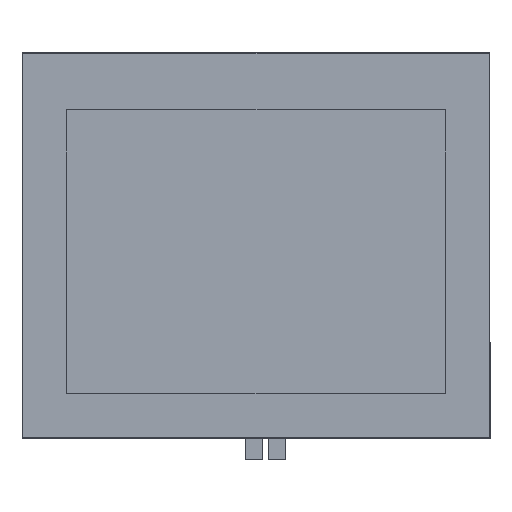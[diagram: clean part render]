
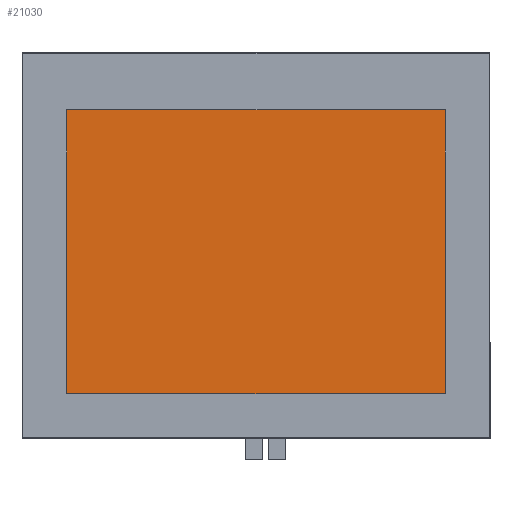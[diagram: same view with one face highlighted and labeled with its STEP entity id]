
A CAD part, top view. The second image highlights one B-rep face of the part: STEP entity #21030.
In plain terms, the highlighted planar face has unit normal (0, 0, 1).
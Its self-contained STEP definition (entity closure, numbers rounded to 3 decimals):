
#175 = CARTESIAN_POINT ( 'NONE',  ( 36., 150.05, 3.9 ) ) ;
#1018 = CARTESIAN_POINT ( 'NONE',  ( 36., 36., 3.9 ) ) ;
#2068 = VECTOR ( 'NONE', #17478, 1000. ) ;
#2098 = VECTOR ( 'NONE', #32379, 1000. ) ;
#2142 = FACE_OUTER_BOUND ( 'NONE', #15164, .T. ) ;
#3230 = AXIS2_PLACEMENT_3D ( 'NONE', #14468, #34590, #17346 ) ;
#4228 = CARTESIAN_POINT ( 'NONE',  ( 340.13, 36., 3.9 ) ) ;
#4598 = EDGE_CURVE ( 'NONE', #31298, #8494, #32689, .T. ) ;
#4893 = ORIENTED_EDGE ( 'NONE', *, *, #20744, .T. ) ;
#5320 = EDGE_CURVE ( 'NONE', #28374, #22663, #11023, .T. ) ;
#5996 = DIRECTION ( 'NONE',  ( -1., 0., 0. ) ) ;
#6630 = CARTESIAN_POINT ( 'NONE',  ( 188.065, 264.1, 3.9 ) ) ;
#8494 = VERTEX_POINT ( 'NONE', #4228 ) ;
#11023 = LINE ( 'NONE', #6630, #21379 ) ;
#11181 = CARTESIAN_POINT ( 'NONE',  ( 340.13, 264.1, 3.9 ) ) ;
#11325 = PLANE ( 'NONE',  #3230 ) ;
#11651 = LINE ( 'NONE', #29725, #34602 ) ;
#14468 = CARTESIAN_POINT ( 'NONE',  ( 188.065, 150.05, 3.9 ) ) ;
#15164 = EDGE_LOOP ( 'NONE', ( #4893, #33893, #29288, #30297 ) ) ;
#17346 = DIRECTION ( 'NONE',  ( 0., -1., 0. ) ) ;
#17478 = DIRECTION ( 'NONE',  ( 0., -1., 0. ) ) ;
#20744 = EDGE_CURVE ( 'NONE', #8494, #28374, #11651, .T. ) ;
#21030 = ADVANCED_FACE ( 'NONE', ( #2142 ), #11325, .T. ) ;
#21379 = VECTOR ( 'NONE', #5996, 1000. ) ;
#22663 = VERTEX_POINT ( 'NONE', #28702 ) ;
#28374 = VERTEX_POINT ( 'NONE', #11181 ) ;
#28702 = CARTESIAN_POINT ( 'NONE',  ( 36., 264.1, 3.9 ) ) ;
#29288 = ORIENTED_EDGE ( 'NONE', *, *, #31584, .T. ) ;
#29725 = CARTESIAN_POINT ( 'NONE',  ( 340.13, 150.05, 3.9 ) ) ;
#29858 = DIRECTION ( 'NONE',  ( 0., 1., 0. ) ) ;
#30297 = ORIENTED_EDGE ( 'NONE', *, *, #4598, .T. ) ;
#31298 = VERTEX_POINT ( 'NONE', #1018 ) ;
#31584 = EDGE_CURVE ( 'NONE', #22663, #31298, #31744, .T. ) ;
#31744 = LINE ( 'NONE', #175, #2068 ) ;
#32379 = DIRECTION ( 'NONE',  ( 1., 0., 0. ) ) ;
#32689 = LINE ( 'NONE', #35516, #2098 ) ;
#33893 = ORIENTED_EDGE ( 'NONE', *, *, #5320, .T. ) ;
#34590 = DIRECTION ( 'NONE',  ( 0., 0., 1. ) ) ;
#34602 = VECTOR ( 'NONE', #29858, 1000. ) ;
#35516 = CARTESIAN_POINT ( 'NONE',  ( 188.065, 36., 3.9 ) ) ;
